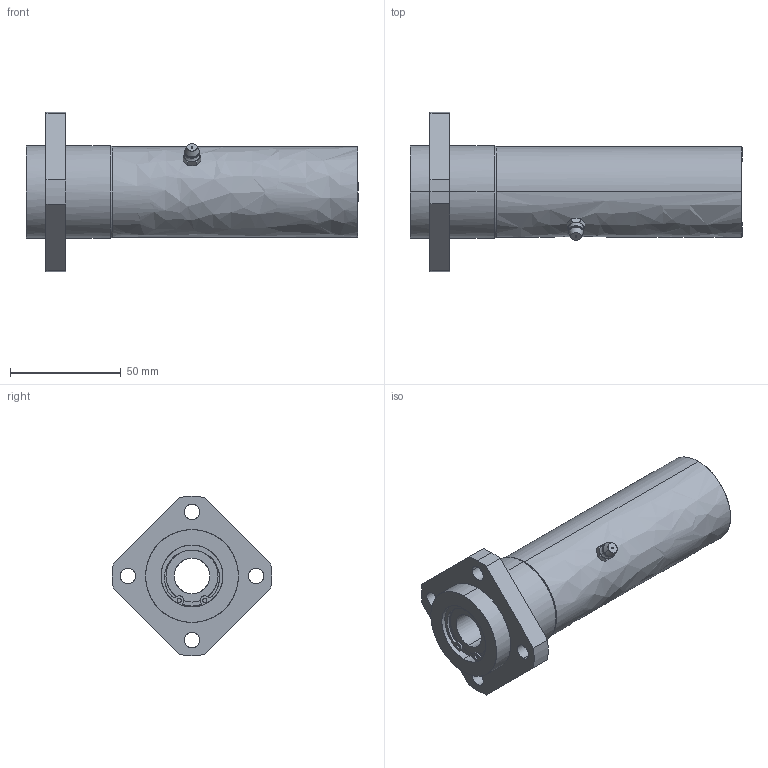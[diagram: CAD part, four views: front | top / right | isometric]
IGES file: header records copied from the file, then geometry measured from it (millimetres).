
Global section: file name: No Iges File Name specified; native system: AutoDesk Inventor R10; preprocessor: AutoDesk Inventor Iges Exporter R10; author: No Author specified; organization: No Organization specified; date: 20101214.141058; units: millimetre
Bounding box: 150 x 71.91 x 72 mm (x, y, z)
Surface area: 38034.5 mm2 (no closed solid volume)
Topology: 0 solids, 0 shells, 162 faces, 1112 edges, 1110 vertices
Faces by surface type: bspline 162
